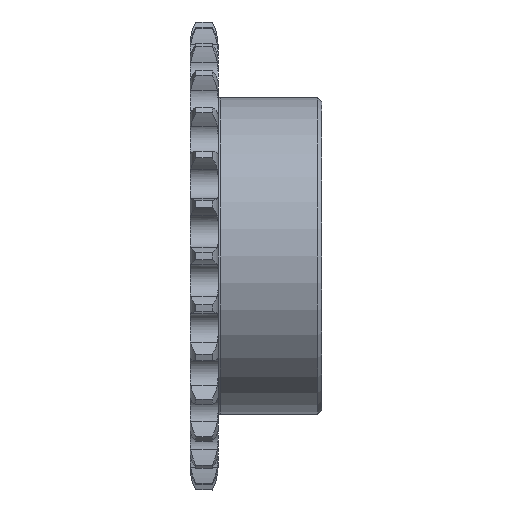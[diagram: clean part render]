
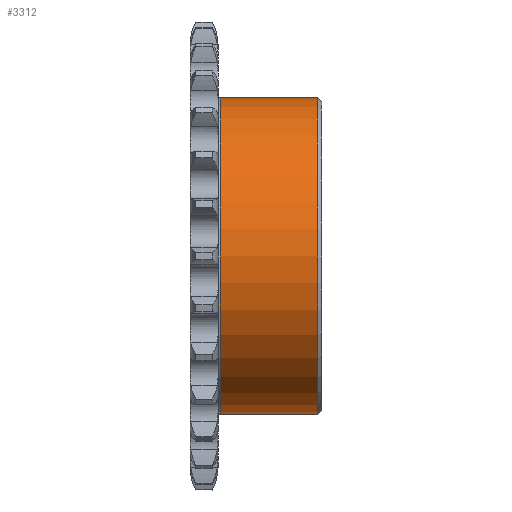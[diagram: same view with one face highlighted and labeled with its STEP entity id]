
A CAD part, front view. The second image highlights one B-rep face of the part: STEP entity #3312.
In plain terms, the highlighted cylindrical face has radius 30 mm (diameter 60 mm), a full revolution.
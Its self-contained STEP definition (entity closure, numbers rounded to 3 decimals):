
#80=FACE_BOUND('',#630,.T.);
#266=CIRCLE('',#3675,30.);
#267=CIRCLE('',#3677,30.);
#445=FACE_OUTER_BOUND('',#629,.T.);
#629=EDGE_LOOP('',(#3011));
#630=EDGE_LOOP('',(#3012));
#1439=VERTEX_POINT('',#6631);
#1440=VERTEX_POINT('',#6634);
#1965=EDGE_CURVE('',#1439,#1439,#266,.T.);
#1966=EDGE_CURVE('',#1440,#1440,#267,.T.);
#3011=ORIENTED_EDGE('',*,*,#1966,.F.);
#3012=ORIENTED_EDGE('',*,*,#1965,.T.);
#3134=CYLINDRICAL_SURFACE('',#3676,30.);
#3312=ADVANCED_FACE('',(#445,#80),#3134,.T.);
#3675=AXIS2_PLACEMENT_3D('',#6632,#4510,#4511);
#3676=AXIS2_PLACEMENT_3D('',#6633,#4512,#4513);
#3677=AXIS2_PLACEMENT_3D('',#6635,#4514,#4515);
#4510=DIRECTION('center_axis',(1.,0.,0.));
#4511=DIRECTION('ref_axis',(0.,0.,-1.));
#4512=DIRECTION('center_axis',(1.,0.,0.));
#4513=DIRECTION('ref_axis',(0.,1.,0.));
#4514=DIRECTION('center_axis',(1.,0.,0.));
#4515=DIRECTION('ref_axis',(0.,0.,-1.));
#6631=CARTESIAN_POINT('',(-13.529,13.337,0.));
#6632=CARTESIAN_POINT('Origin',(-13.529,-16.663,0.));
#6633=CARTESIAN_POINT('Origin',(-4.279,-16.663,0.));
#6634=CARTESIAN_POINT('',(4.971,13.337,0.));
#6635=CARTESIAN_POINT('Origin',(4.971,-16.663,0.));
